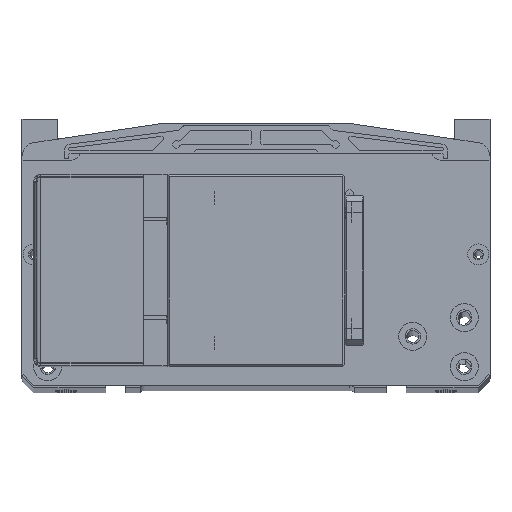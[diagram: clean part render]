
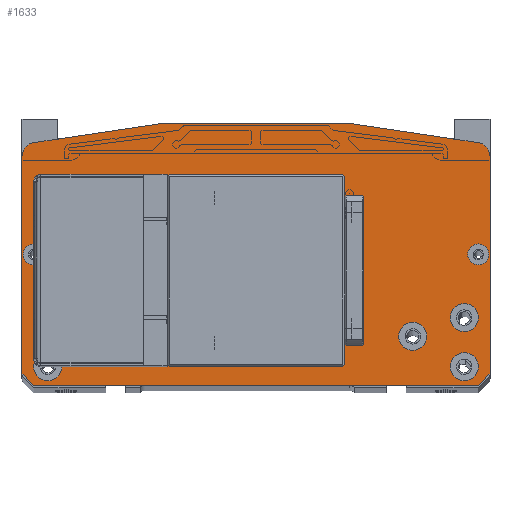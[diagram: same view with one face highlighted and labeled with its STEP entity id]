
A CAD part, top view. The second image highlights one B-rep face of the part: STEP entity #1633.
In plain terms, the highlighted planar face has unit normal (0, 0, 1).
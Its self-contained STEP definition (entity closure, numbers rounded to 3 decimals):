
#1633=ADVANCED_FACE('',(#6041,#6042,#6043,#6044,#6045,#6046,#6047,#6048,
#6049,#6050,#6051,#6052,#6053),#2660,.F.);
#2660=PLANE('',#18652);
#3131=LINE('',#25875,#4586);
#3132=LINE('',#25878,#4587);
#3133=LINE('',#25880,#4588);
#3134=LINE('',#25882,#4589);
#3135=LINE('',#25886,#4590);
#3136=LINE('',#25888,#4591);
#3137=LINE('',#25890,#4592);
#3138=LINE('',#25894,#4593);
#3139=LINE('',#25895,#4594);
#3140=LINE('',#25898,#4595);
#3141=LINE('',#25900,#4596);
#3142=LINE('',#25902,#4597);
#3143=LINE('',#25903,#4598);
#3144=LINE('',#25906,#4599);
#3145=LINE('',#25908,#4600);
#3146=LINE('',#25910,#4601);
#4586=VECTOR('',#20581,1.);
#4587=VECTOR('',#20582,1.);
#4588=VECTOR('',#20583,1.);
#4589=VECTOR('',#20584,1.);
#4590=VECTOR('',#20587,1.);
#4591=VECTOR('',#20588,1.);
#4592=VECTOR('',#20589,1.);
#4593=VECTOR('',#20592,1.);
#4594=VECTOR('',#20593,1.);
#4595=VECTOR('',#20594,1.);
#4596=VECTOR('',#20595,1.);
#4597=VECTOR('',#20596,1.);
#4598=VECTOR('',#20597,1.);
#4599=VECTOR('',#20598,1.);
#4600=VECTOR('',#20599,1.);
#4601=VECTOR('',#20600,1.);
#6041=FACE_BOUND('',#6759,.T.);
#6042=FACE_BOUND('',#6760,.T.);
#6043=FACE_BOUND('',#6761,.T.);
#6044=FACE_BOUND('',#6762,.T.);
#6045=FACE_BOUND('',#6763,.T.);
#6046=FACE_BOUND('',#6764,.T.);
#6047=FACE_BOUND('',#6765,.T.);
#6048=FACE_BOUND('',#6766,.T.);
#6049=FACE_BOUND('',#6767,.T.);
#6050=FACE_BOUND('',#6768,.T.);
#6051=FACE_BOUND('',#6769,.T.);
#6052=FACE_BOUND('',#6770,.T.);
#6053=FACE_BOUND('',#6771,.T.);
#6759=EDGE_LOOP('',(#8182));
#6760=EDGE_LOOP('',(#8183));
#6761=EDGE_LOOP('',(#8184));
#6762=EDGE_LOOP('',(#8185));
#6763=EDGE_LOOP('',(#8186));
#6764=EDGE_LOOP('',(#8187));
#6765=EDGE_LOOP('',(#8188));
#6766=EDGE_LOOP('',(#8189));
#6767=EDGE_LOOP('',(#8190));
#6768=EDGE_LOOP('',(#8191));
#6769=EDGE_LOOP('',(#8192,#8193,#8194,#8195,#8196,#8197,#8198,#8199,#8200,
#8201));
#6770=EDGE_LOOP('',(#8202,#8203,#8204,#8205));
#6771=EDGE_LOOP('',(#8206,#8207,#8208,#8209));
#8182=ORIENTED_EDGE('',*,*,#15152,.T.);
#8183=ORIENTED_EDGE('',*,*,#15153,.T.);
#8184=ORIENTED_EDGE('',*,*,#15154,.T.);
#8185=ORIENTED_EDGE('',*,*,#15155,.T.);
#8186=ORIENTED_EDGE('',*,*,#15156,.T.);
#8187=ORIENTED_EDGE('',*,*,#15157,.T.);
#8188=ORIENTED_EDGE('',*,*,#15158,.T.);
#8189=ORIENTED_EDGE('',*,*,#15159,.T.);
#8190=ORIENTED_EDGE('',*,*,#15160,.T.);
#8191=ORIENTED_EDGE('',*,*,#15161,.T.);
#8192=ORIENTED_EDGE('',*,*,#15162,.F.);
#8193=ORIENTED_EDGE('',*,*,#15163,.T.);
#8194=ORIENTED_EDGE('',*,*,#15164,.F.);
#8195=ORIENTED_EDGE('',*,*,#15165,.T.);
#8196=ORIENTED_EDGE('',*,*,#15166,.F.);
#8197=ORIENTED_EDGE('',*,*,#15167,.F.);
#8198=ORIENTED_EDGE('',*,*,#15168,.T.);
#8199=ORIENTED_EDGE('',*,*,#15169,.F.);
#8200=ORIENTED_EDGE('',*,*,#15170,.F.);
#8201=ORIENTED_EDGE('',*,*,#15171,.T.);
#8202=ORIENTED_EDGE('',*,*,#15172,.T.);
#8203=ORIENTED_EDGE('',*,*,#15173,.T.);
#8204=ORIENTED_EDGE('',*,*,#15174,.T.);
#8205=ORIENTED_EDGE('',*,*,#15175,.T.);
#8206=ORIENTED_EDGE('',*,*,#15176,.F.);
#8207=ORIENTED_EDGE('',*,*,#15177,.F.);
#8208=ORIENTED_EDGE('',*,*,#15178,.T.);
#8209=ORIENTED_EDGE('',*,*,#15179,.T.);
#13368=VERTEX_POINT('',#25856);
#13369=VERTEX_POINT('',#25858);
#13370=VERTEX_POINT('',#25860);
#13371=VERTEX_POINT('',#25862);
#13372=VERTEX_POINT('',#25864);
#13373=VERTEX_POINT('',#25866);
#13374=VERTEX_POINT('',#25868);
#13375=VERTEX_POINT('',#25870);
#13376=VERTEX_POINT('',#25872);
#13377=VERTEX_POINT('',#25874);
#13378=VERTEX_POINT('',#25876);
#13379=VERTEX_POINT('',#25877);
#13380=VERTEX_POINT('',#25879);
#13381=VERTEX_POINT('',#25881);
#13382=VERTEX_POINT('',#25883);
#13383=VERTEX_POINT('',#25885);
#13384=VERTEX_POINT('',#25887);
#13385=VERTEX_POINT('',#25889);
#13386=VERTEX_POINT('',#25891);
#13387=VERTEX_POINT('',#25893);
#13388=VERTEX_POINT('',#25896);
#13389=VERTEX_POINT('',#25897);
#13390=VERTEX_POINT('',#25899);
#13391=VERTEX_POINT('',#25901);
#13392=VERTEX_POINT('',#25904);
#13393=VERTEX_POINT('',#25905);
#13394=VERTEX_POINT('',#25907);
#13395=VERTEX_POINT('',#25909);
#15152=EDGE_CURVE('',#13368,#13368,#17745,.T.);
#15153=EDGE_CURVE('',#13369,#13369,#17746,.T.);
#15154=EDGE_CURVE('',#13370,#13370,#17747,.T.);
#15155=EDGE_CURVE('',#13371,#13371,#17748,.T.);
#15156=EDGE_CURVE('',#13372,#13372,#17749,.T.);
#15157=EDGE_CURVE('',#13373,#13373,#17750,.T.);
#15158=EDGE_CURVE('',#13374,#13374,#17751,.T.);
#15159=EDGE_CURVE('',#13375,#13375,#17752,.T.);
#15160=EDGE_CURVE('',#13376,#13376,#17753,.T.);
#15161=EDGE_CURVE('',#13377,#13377,#17754,.T.);
#15162=EDGE_CURVE('',#13378,#13379,#3131,.T.);
#15163=EDGE_CURVE('',#13378,#13380,#3132,.T.);
#15164=EDGE_CURVE('',#13381,#13380,#3133,.T.);
#15165=EDGE_CURVE('',#13381,#13382,#3134,.T.);
#15166=EDGE_CURVE('',#13383,#13382,#17755,.T.);
#15167=EDGE_CURVE('',#13384,#13383,#3135,.T.);
#15168=EDGE_CURVE('',#13384,#13385,#3136,.T.);
#15169=EDGE_CURVE('',#13386,#13385,#3137,.T.);
#15170=EDGE_CURVE('',#13387,#13386,#17756,.T.);
#15171=EDGE_CURVE('',#13387,#13379,#3138,.T.);
#15172=EDGE_CURVE('',#13388,#13389,#3139,.T.);
#15173=EDGE_CURVE('',#13389,#13390,#3140,.T.);
#15174=EDGE_CURVE('',#13390,#13391,#3141,.T.);
#15175=EDGE_CURVE('',#13391,#13388,#3142,.T.);
#15176=EDGE_CURVE('',#13392,#13393,#3143,.T.);
#15177=EDGE_CURVE('',#13394,#13392,#3144,.T.);
#15178=EDGE_CURVE('',#13394,#13395,#3145,.T.);
#15179=EDGE_CURVE('',#13395,#13393,#3146,.T.);
#17745=CIRCLE('',#18640,1.65);
#17746=CIRCLE('',#18641,1.65);
#17747=CIRCLE('',#18642,4.5);
#17748=CIRCLE('',#18643,4.5);
#17749=CIRCLE('',#18644,6.);
#17750=CIRCLE('',#18645,6.);
#17751=CIRCLE('',#18646,6.);
#17752=CIRCLE('',#18647,6.);
#17753=CIRCLE('',#18648,6.);
#17754=CIRCLE('',#18649,6.);
#17755=CIRCLE('',#18650,6.);
#17756=CIRCLE('',#18651,6.);
#18640=AXIS2_PLACEMENT_3D('',#25855,#20561,#20562);
#18641=AXIS2_PLACEMENT_3D('',#25857,#20563,#20564);
#18642=AXIS2_PLACEMENT_3D('',#25859,#20565,#20566);
#18643=AXIS2_PLACEMENT_3D('',#25861,#20567,#20568);
#18644=AXIS2_PLACEMENT_3D('',#25863,#20569,#20570);
#18645=AXIS2_PLACEMENT_3D('',#25865,#20571,#20572);
#18646=AXIS2_PLACEMENT_3D('',#25867,#20573,#20574);
#18647=AXIS2_PLACEMENT_3D('',#25869,#20575,#20576);
#18648=AXIS2_PLACEMENT_3D('',#25871,#20577,#20578);
#18649=AXIS2_PLACEMENT_3D('',#25873,#20579,#20580);
#18650=AXIS2_PLACEMENT_3D('',#25884,#20585,#20586);
#18651=AXIS2_PLACEMENT_3D('',#25892,#20590,#20591);
#18652=AXIS2_PLACEMENT_3D('',#25911,#20601,#20602);
#20561=DIRECTION('',(0.,0.,-1.));
#20562=DIRECTION('',(1.,0.,0.));
#20563=DIRECTION('',(0.,0.,-1.));
#20564=DIRECTION('',(1.,0.,0.));
#20565=DIRECTION('',(0.,0.,-1.));
#20566=DIRECTION('',(1.,0.,0.));
#20567=DIRECTION('',(0.,0.,-1.));
#20568=DIRECTION('',(1.,0.,0.));
#20569=DIRECTION('',(0.,0.,-1.));
#20570=DIRECTION('',(1.,0.,0.));
#20571=DIRECTION('',(0.,0.,-1.));
#20572=DIRECTION('',(1.,0.,0.));
#20573=DIRECTION('',(0.,0.,-1.));
#20574=DIRECTION('',(1.,0.,0.));
#20575=DIRECTION('',(0.,0.,-1.));
#20576=DIRECTION('',(1.,0.,0.));
#20577=DIRECTION('',(0.,0.,-1.));
#20578=DIRECTION('',(1.,0.,0.));
#20579=DIRECTION('',(0.,0.,-1.));
#20580=DIRECTION('',(1.,0.,0.));
#20581=DIRECTION('',(-0.707,0.707,0.));
#20582=DIRECTION('',(1.,0.,0.));
#20583=DIRECTION('',(-0.707,-0.707,0.));
#20584=DIRECTION('',(0.,1.,0.));
#20585=DIRECTION('',(0.,0.,-1.));
#20586=DIRECTION('',(0.148,0.989,0.));
#20587=DIRECTION('',(0.989,-0.148,0.));
#20588=DIRECTION('',(-1.,0.,0.));
#20589=DIRECTION('',(0.989,0.148,0.));
#20590=DIRECTION('',(0.,0.,-1.));
#20591=DIRECTION('',(-1.,0.,0.));
#20592=DIRECTION('',(0.,-1.,0.));
#20593=DIRECTION('',(0.,1.,0.));
#20594=DIRECTION('',(1.,0.,0.));
#20595=DIRECTION('',(0.,-1.,0.));
#20596=DIRECTION('',(-1.,0.,0.));
#20597=DIRECTION('',(0.,1.,0.));
#20598=DIRECTION('',(1.,0.,0.));
#20599=DIRECTION('',(0.,1.,0.));
#20600=DIRECTION('',(1.,0.,0.));
#20601=DIRECTION('',(0.,0.,-1.));
#20602=DIRECTION('',(-1.,0.,0.));
#25855=CARTESIAN_POINT('',(-42.,33.,463.));
#25856=CARTESIAN_POINT('',(-40.35,33.,463.));
#25857=CARTESIAN_POINT('',(-42.,69.,463.));
#25858=CARTESIAN_POINT('',(-40.35,69.,463.));
#25859=CARTESIAN_POINT('',(-95.,58.,463.));
#25860=CARTESIAN_POINT('',(-90.5,58.,463.));
#25861=CARTESIAN_POINT('',(95.,58.,463.));
#25862=CARTESIAN_POINT('',(99.5,58.,463.));
#25863=CARTESIAN_POINT('',(-67.,23.,463.));
#25864=CARTESIAN_POINT('',(-61.,23.,463.));
#25865=CARTESIAN_POINT('',(67.,23.,463.));
#25866=CARTESIAN_POINT('',(73.,23.,463.));
#25867=CARTESIAN_POINT('',(-89.,31.,463.));
#25868=CARTESIAN_POINT('',(-83.,31.,463.));
#25869=CARTESIAN_POINT('',(89.,31.,463.));
#25870=CARTESIAN_POINT('',(95.,31.,463.));
#25871=CARTESIAN_POINT('',(-89.,10.,463.));
#25872=CARTESIAN_POINT('',(-83.,10.,463.));
#25873=CARTESIAN_POINT('',(89.,10.,463.));
#25874=CARTESIAN_POINT('',(95.,10.,463.));
#25875=CARTESIAN_POINT('',(-95.,2.,463.));
#25876=CARTESIAN_POINT('',(-95.,2.,463.));
#25877=CARTESIAN_POINT('',(-100.,7.,463.));
#25878=CARTESIAN_POINT('',(67.5,2.,463.));
#25879=CARTESIAN_POINT('',(95.,2.,463.));
#25880=CARTESIAN_POINT('',(100.,7.,463.));
#25881=CARTESIAN_POINT('',(100.,7.,463.));
#25882=CARTESIAN_POINT('',(100.,7.,463.));
#25883=CARTESIAN_POINT('',(100.,99.833,463.));
#25884=CARTESIAN_POINT('',(94.,99.833,463.));
#25885=CARTESIAN_POINT('',(94.89,105.766,463.));
#25886=CARTESIAN_POINT('',(40.,114.,463.));
#25887=CARTESIAN_POINT('',(40.,114.,463.));
#25888=CARTESIAN_POINT('',(40.,114.,463.));
#25889=CARTESIAN_POINT('',(-40.,114.,463.));
#25890=CARTESIAN_POINT('',(-94.89,105.766,463.));
#25891=CARTESIAN_POINT('',(-94.89,105.766,463.));
#25892=CARTESIAN_POINT('',(-94.,99.833,463.));
#25893=CARTESIAN_POINT('',(-100.,99.833,463.));
#25894=CARTESIAN_POINT('',(-100.,99.833,463.));
#25895=CARTESIAN_POINT('',(-37.,91.,463.));
#25896=CARTESIAN_POINT('',(-37.,11.,463.));
#25897=CARTESIAN_POINT('',(-37.,91.,463.));
#25898=CARTESIAN_POINT('',(37.,91.,463.));
#25899=CARTESIAN_POINT('',(37.,91.,463.));
#25900=CARTESIAN_POINT('',(37.,11.,463.));
#25901=CARTESIAN_POINT('',(37.,11.,463.));
#25902=CARTESIAN_POINT('',(-37.,11.,463.));
#25903=CARTESIAN_POINT('',(45.5,80.466,463.));
#25904=CARTESIAN_POINT('',(45.5,21.534,463.));
#25905=CARTESIAN_POINT('',(45.5,80.466,463.));
#25906=CARTESIAN_POINT('',(45.5,21.534,463.));
#25907=CARTESIAN_POINT('',(38.5,21.534,463.));
#25908=CARTESIAN_POINT('',(38.5,80.466,463.));
#25909=CARTESIAN_POINT('',(38.5,80.466,463.));
#25910=CARTESIAN_POINT('',(45.5,80.466,463.));
#25911=CARTESIAN_POINT('',(0.,2.,463.));
